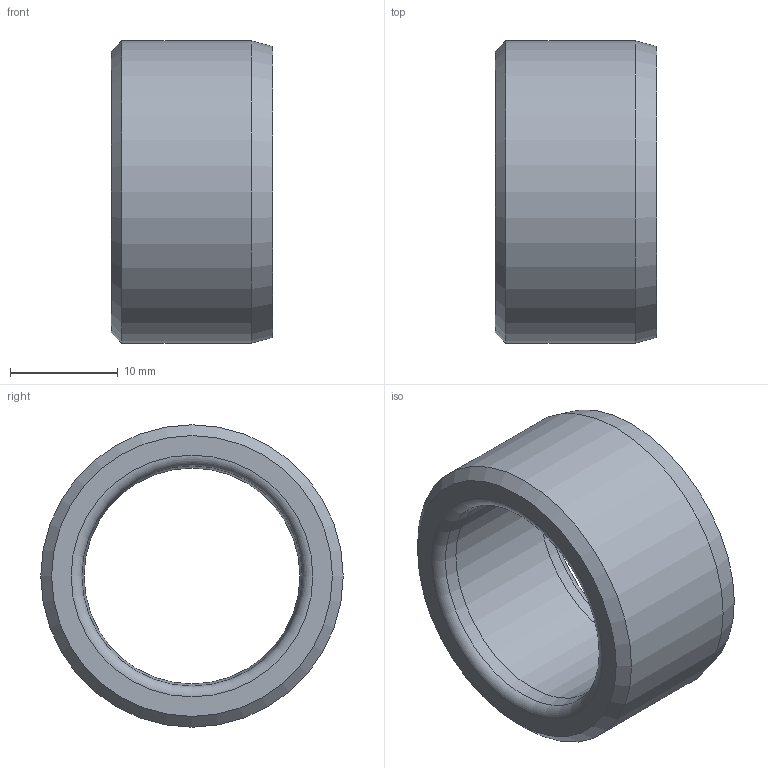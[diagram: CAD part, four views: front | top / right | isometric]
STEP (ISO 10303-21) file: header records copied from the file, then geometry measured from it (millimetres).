
FILE_DESCRIPTION(/* description */ (''),/* implementation_level */ '2;1');
FILE_NAME(/* name */ '',/* time_stamp */ '2024-08-09T13:01:49+09:00',/* author */ ('jhkim'),/* organization */ (''),/* preprocessor_version */ 'ST-DEVELOPER v20',/* originating_system */ 'Autodesk Inventor 2025',/* authorisation */ '');
FILE_SCHEMA (('AUTOMOTIVE_DESIGN { 1 0 10303 214 3 1 1 }'));
Length unit declared in the file: millimetre
Products named in the file (1): 오일레스 부시 20 15
Bounding box: 15 x 28 x 28 mm (x, y, z)
Volume: 4371 mm3; surface area: 2696.1 mm2
Topology: 1 solids, 1 shells, 10 faces, 20 edges, 12 vertices
Faces by surface type: cone 4, cylinder 2, plane 2, torus 2
Full cylindrical faces by diameter (mm): 20 x1, 28 x1
Entity records: 313 total; most frequent: DIRECTION 56, CARTESIAN_POINT 43, ORIENTED_EDGE 40, AXIS2_PLACEMENT_3D 25, EDGE_CURVE 20, CIRCLE 14, EDGE_LOOP 12, VERTEX_POINT 12
